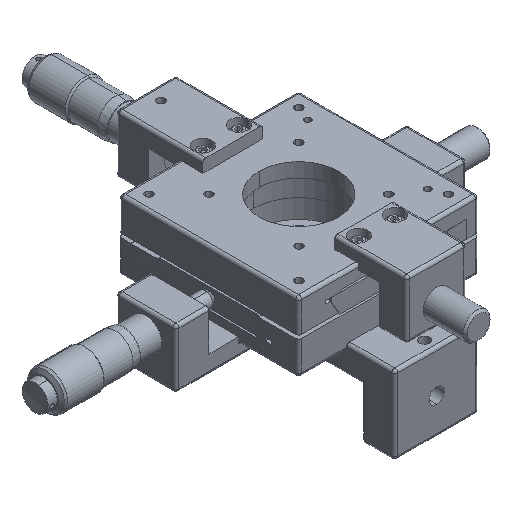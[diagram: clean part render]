
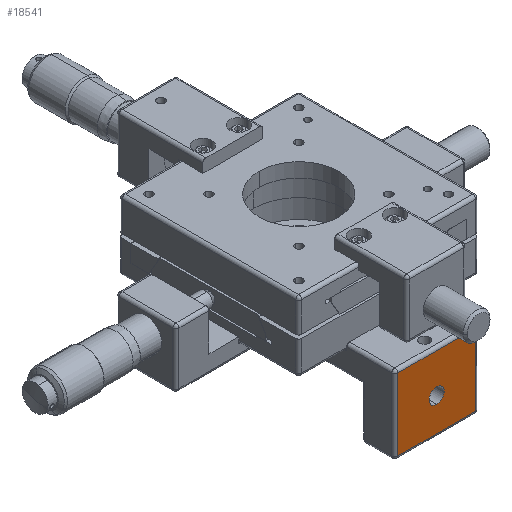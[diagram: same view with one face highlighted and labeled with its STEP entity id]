
A CAD part, isometric view. The second image highlights one B-rep face of the part: STEP entity #18541.
In plain terms, the highlighted planar face has unit normal (0, -1, 0).
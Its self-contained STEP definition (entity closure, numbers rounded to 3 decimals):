
#385 = ORIENTED_EDGE ( 'NONE', *, *, #2113, .T. ) ;
#540 = VECTOR ( 'NONE', #2927, 1000. ) ;
#1611 = EDGE_CURVE ( 'NONE', #21263, #16270, #3956, .T. ) ;
#1771 = EDGE_LOOP ( 'NONE', ( #5600, #9303 ) ) ;
#2053 = CARTESIAN_POINT ( 'NONE',  ( -10.277, -82., -40.45 ) ) ;
#2113 = EDGE_CURVE ( 'NONE', #5741, #10925, #6062, .T. ) ;
#2177 = CARTESIAN_POINT ( 'NONE',  ( 3.723, -82., -31.95 ) ) ;
#2324 = CARTESIAN_POINT ( 'NONE',  ( -10.277, -82., -16.45 ) ) ;
#2927 = DIRECTION ( 'NONE',  ( 0., 0., 1. ) ) ;
#3360 = CARTESIAN_POINT ( 'NONE',  ( -9.277, -82., -41.45 ) ) ;
#3543 = ORIENTED_EDGE ( 'NONE', *, *, #1611, .T. ) ;
#3879 = EDGE_LOOP ( 'NONE', ( #3543, #10650, #385, #8654 ) ) ;
#3956 = LINE ( 'NONE', #3360, #8885 ) ;
#4131 = DIRECTION ( 'NONE',  ( 0., -1., 0. ) ) ;
#4336 = AXIS2_PLACEMENT_3D ( 'NONE', #11938, #15653, #4607 ) ;
#4607 = DIRECTION ( 'NONE',  ( 0., 0., -1. ) ) ;
#4748 = DIRECTION ( 'NONE',  ( 0., -1., 0. ) ) ;
#5569 = CARTESIAN_POINT ( 'NONE',  ( 16.723, -82., -40.45 ) ) ;
#5600 = ORIENTED_EDGE ( 'NONE', *, *, #16958, .F. ) ;
#5741 = VERTEX_POINT ( 'NONE', #5569 ) ;
#6052 = DIRECTION ( 'NONE',  ( -1., 0., 0. ) ) ;
#6062 = LINE ( 'NONE', #12141, #540 ) ;
#6298 = PLANE ( 'NONE',  #4336 ) ;
#6633 = AXIS2_PLACEMENT_3D ( 'NONE', #15792, #4748, #17676 ) ;
#7700 = CARTESIAN_POINT ( 'NONE',  ( 16.723, -82., -16.45 ) ) ;
#8231 = CARTESIAN_POINT ( 'NONE',  ( -9.277, -82., -40.45 ) ) ;
#8452 = VECTOR ( 'NONE', #9494, 1000. ) ;
#8501 = CIRCLE ( 'NONE', #6633, 2.5 ) ;
#8654 = ORIENTED_EDGE ( 'NONE', *, *, #13340, .T. ) ;
#8885 = VECTOR ( 'NONE', #16298, 1000. ) ;
#9303 = ORIENTED_EDGE ( 'NONE', *, *, #20420, .F. ) ;
#9494 = DIRECTION ( 'NONE',  ( 1., 0., 0. ) ) ;
#9675 = CARTESIAN_POINT ( 'NONE',  ( 3.723, -82., -26.95 ) ) ;
#10151 = EDGE_CURVE ( 'NONE', #16270, #5741, #22011, .T. ) ;
#10650 = ORIENTED_EDGE ( 'NONE', *, *, #10151, .T. ) ;
#10925 = VERTEX_POINT ( 'NONE', #7700 ) ;
#10934 = VERTEX_POINT ( 'NONE', #2177 ) ;
#11363 = FACE_OUTER_BOUND ( 'NONE', #3879, .T. ) ;
#11938 = CARTESIAN_POINT ( 'NONE',  ( -10.277, -82., -15.45 ) ) ;
#12141 = CARTESIAN_POINT ( 'NONE',  ( 16.723, -82., -15.45 ) ) ;
#13340 = EDGE_CURVE ( 'NONE', #10925, #21263, #14978, .T. ) ;
#14801 = AXIS2_PLACEMENT_3D ( 'NONE', #15182, #4131, #17060 ) ;
#14978 = LINE ( 'NONE', #2324, #16156 ) ;
#15126 = FACE_BOUND ( 'NONE', #1771, .T. ) ;
#15182 = CARTESIAN_POINT ( 'NONE',  ( 3.723, -82., -29.45 ) ) ;
#15653 = DIRECTION ( 'NONE',  ( 0., -1., 0. ) ) ;
#15792 = CARTESIAN_POINT ( 'NONE',  ( 3.723, -82., -29.45 ) ) ;
#16156 = VECTOR ( 'NONE', #6052, 1000. ) ;
#16270 = VERTEX_POINT ( 'NONE', #8231 ) ;
#16298 = DIRECTION ( 'NONE',  ( 0., 0., -1. ) ) ;
#16958 = EDGE_CURVE ( 'NONE', #10934, #18909, #8501, .T. ) ;
#17060 = DIRECTION ( 'NONE',  ( 0., 0., -1. ) ) ;
#17676 = DIRECTION ( 'NONE',  ( 0., 0., -1. ) ) ;
#18466 = CARTESIAN_POINT ( 'NONE',  ( -9.277, -82., -16.45 ) ) ;
#18541 = ADVANCED_FACE ( 'NONE', ( #15126, #11363 ), #6298, .T. ) ;
#18909 = VERTEX_POINT ( 'NONE', #9675 ) ;
#19473 = CIRCLE ( 'NONE', #14801, 2.5 ) ;
#20420 = EDGE_CURVE ( 'NONE', #18909, #10934, #19473, .T. ) ;
#21263 = VERTEX_POINT ( 'NONE', #18466 ) ;
#22011 = LINE ( 'NONE', #2053, #8452 ) ;
